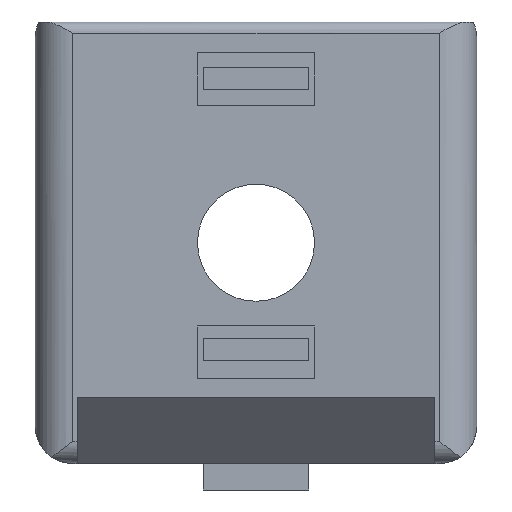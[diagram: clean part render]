
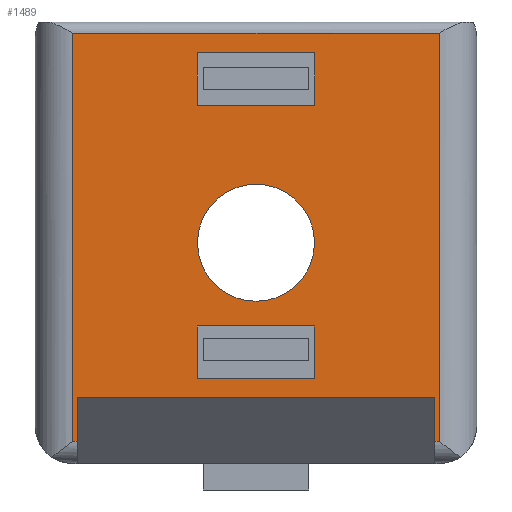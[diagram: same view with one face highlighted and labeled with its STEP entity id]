
A CAD part, left-side view. The second image highlights one B-rep face of the part: STEP entity #1489.
In plain terms, the highlighted planar face has unit normal (-1, 0, 0).
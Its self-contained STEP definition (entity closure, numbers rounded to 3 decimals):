
#38=CIRCLE($,#1587,2.65);
#119=FACE_BOUND($,#268,.T.);
#120=FACE_BOUND($,#269,.T.);
#121=FACE_BOUND($,#270,.T.);
#122=FACE_BOUND($,#271,.T.);
#268=EDGE_LOOP($,(#1221,#1222,#1223,#1224));
#269=EDGE_LOOP($,(#1225,#1226,#1227,#1228));
#270=EDGE_LOOP($,(#1229,#1230,#1231,#1232,#1233,#1234,#1235,#1236));
#271=EDGE_LOOP($,(#1237));
#330=LINE($,#2066,#494);
#334=LINE($,#2074,#498);
#337=LINE($,#2080,#501);
#340=LINE($,#2085,#504);
#342=LINE($,#2091,#506);
#346=LINE($,#2099,#510);
#349=LINE($,#2105,#513);
#352=LINE($,#2110,#516);
#415=LINE($,#2285,#579);
#416=LINE($,#2290,#580);
#423=LINE($,#2331,#587);
#424=LINE($,#2346,#588);
#427=LINE($,#2354,#591);
#428=LINE($,#2356,#592);
#429=LINE($,#2357,#593);
#430=LINE($,#2358,#594);
#494=VECTOR($,#1676,5.3);
#498=VECTOR($,#1682,2.4);
#501=VECTOR($,#1687,5.3);
#504=VECTOR($,#1692,2.4);
#506=VECTOR($,#1698,5.3);
#510=VECTOR($,#1704,2.4);
#513=VECTOR($,#1709,5.3);
#516=VECTOR($,#1714,2.4);
#579=VECTOR($,#1843,0.2);
#580=VECTOR($,#1848,0.2);
#587=VECTOR($,#1871,18.5);
#588=VECTOR($,#1878,16.6);
#591=VECTOR($,#1887,2.);
#592=VECTOR($,#1888,16.2);
#593=VECTOR($,#1889,2.);
#594=VECTOR($,#1890,18.5);
#650=VERTEX_POINT($,#2064);
#651=VERTEX_POINT($,#2065);
#654=VERTEX_POINT($,#2073);
#656=VERTEX_POINT($,#2079);
#658=VERTEX_POINT($,#2089);
#659=VERTEX_POINT($,#2090);
#662=VERTEX_POINT($,#2098);
#664=VERTEX_POINT($,#2104);
#717=VERTEX_POINT($,#2278);
#718=VERTEX_POINT($,#2280);
#719=VERTEX_POINT($,#2287);
#720=VERTEX_POINT($,#2289);
#727=VERTEX_POINT($,#2321);
#731=VERTEX_POINT($,#2337);
#733=VERTEX_POINT($,#2353);
#734=VERTEX_POINT($,#2355);
#735=VERTEX_POINT($,#2359);
#794=EDGE_CURVE($,#650,#651,#330,.T.);
#798=EDGE_CURVE($,#651,#654,#334,.T.);
#801=EDGE_CURVE($,#654,#656,#337,.T.);
#804=EDGE_CURVE($,#656,#650,#340,.T.);
#806=EDGE_CURVE($,#658,#659,#342,.T.);
#810=EDGE_CURVE($,#659,#662,#346,.T.);
#813=EDGE_CURVE($,#662,#664,#349,.T.);
#816=EDGE_CURVE($,#664,#658,#352,.T.);
#889=EDGE_CURVE($,#717,#718,#415,.T.);
#891=EDGE_CURVE($,#720,#719,#416,.T.);
#904=EDGE_CURVE($,#718,#727,#423,.T.);
#908=EDGE_CURVE($,#731,#727,#424,.T.);
#912=EDGE_CURVE($,#719,#733,#427,.T.);
#913=EDGE_CURVE($,#733,#734,#428,.T.);
#914=EDGE_CURVE($,#734,#717,#429,.T.);
#915=EDGE_CURVE($,#731,#720,#430,.T.);
#916=EDGE_CURVE($,#735,#735,#38,.T.);
#1221=ORIENTED_EDGE($,*,*,#794,.T.);
#1222=ORIENTED_EDGE($,*,*,#798,.T.);
#1223=ORIENTED_EDGE($,*,*,#801,.T.);
#1224=ORIENTED_EDGE($,*,*,#804,.T.);
#1225=ORIENTED_EDGE($,*,*,#806,.T.);
#1226=ORIENTED_EDGE($,*,*,#810,.T.);
#1227=ORIENTED_EDGE($,*,*,#813,.T.);
#1228=ORIENTED_EDGE($,*,*,#816,.T.);
#1229=ORIENTED_EDGE($,*,*,#912,.T.);
#1230=ORIENTED_EDGE($,*,*,#913,.T.);
#1231=ORIENTED_EDGE($,*,*,#914,.T.);
#1232=ORIENTED_EDGE($,*,*,#889,.T.);
#1233=ORIENTED_EDGE($,*,*,#904,.T.);
#1234=ORIENTED_EDGE($,*,*,#908,.F.);
#1235=ORIENTED_EDGE($,*,*,#915,.T.);
#1236=ORIENTED_EDGE($,*,*,#891,.T.);
#1237=ORIENTED_EDGE($,*,*,#916,.T.);
#1416=PLANE($,#1586);
#1489=ADVANCED_FACE($,(#119,#120,#121,#122),#1416,.T.);
#1586=AXIS2_PLACEMENT_3D($,#2352,#1885,#1886);
#1587=AXIS2_PLACEMENT_3D($,#2360,#1891,#1892);
#1676=DIRECTION($,(0.,-1.,0.));
#1682=DIRECTION($,(0.,0.,-1.));
#1687=DIRECTION($,(0.,1.,0.));
#1692=DIRECTION($,(0.,0.,1.));
#1698=DIRECTION($,(0.,-1.,0.));
#1704=DIRECTION($,(0.,0.,-1.));
#1709=DIRECTION($,(0.,1.,0.));
#1714=DIRECTION($,(0.,0.,1.));
#1843=DIRECTION($,(0.,-1.,0.));
#1848=DIRECTION($,(0.,-1.,0.));
#1871=DIRECTION($,(0.,0.,1.));
#1878=DIRECTION($,(0.,-1.,0.));
#1885=DIRECTION('center_axis',(-1.,0.,0.));
#1886=DIRECTION('ref_axis',(0.,0.,1.));
#1887=DIRECTION($,(0.,0.,1.));
#1888=DIRECTION($,(0.,-1.,0.));
#1889=DIRECTION($,(0.,0.,-1.));
#1890=DIRECTION($,(0.,0.,-1.));
#1891=DIRECTION('center_axis',(1.,0.,0.));
#1892=DIRECTION('ref_axis',(0.,1.,0.));
#2064=CARTESIAN_POINT('',(0.,12.65,6.229));
#2065=CARTESIAN_POINT('',(0.,7.35,6.229));
#2066=CARTESIAN_POINT($,(0.,13.675,6.229));
#2073=CARTESIAN_POINT('',(0.,7.35,3.829));
#2074=CARTESIAN_POINT($,(0.,7.35,2.415));
#2079=CARTESIAN_POINT('',(0.,12.65,3.829));
#2080=CARTESIAN_POINT($,(0.,16.325,3.829));
#2085=CARTESIAN_POINT($,(0.,12.65,3.615));
#2089=CARTESIAN_POINT('',(0.,12.65,18.615));
#2090=CARTESIAN_POINT('',(0.,7.35,18.615));
#2091=CARTESIAN_POINT($,(0.,13.675,18.615));
#2098=CARTESIAN_POINT('',(0.,7.35,16.215));
#2099=CARTESIAN_POINT($,(0.,7.35,8.607));
#2104=CARTESIAN_POINT('',(0.,12.65,16.215));
#2105=CARTESIAN_POINT($,(0.,16.325,16.215));
#2110=CARTESIAN_POINT($,(0.,12.65,9.807));
#2278=CARTESIAN_POINT('',(0.,1.9,1.));
#2280=CARTESIAN_POINT('',(0.,1.7,1.));
#2285=CARTESIAN_POINT($,(0.,20.,1.));
#2287=CARTESIAN_POINT('',(0.,18.1,1.));
#2289=CARTESIAN_POINT('',(0.,18.3,1.));
#2290=CARTESIAN_POINT($,(0.,20.,1.));
#2321=CARTESIAN_POINT('',(0.,1.7,19.5));
#2331=CARTESIAN_POINT($,(0.,1.7,0.5));
#2337=CARTESIAN_POINT('',(0.,18.3,19.5));
#2346=CARTESIAN_POINT($,(0.,20.,19.5));
#2352=CARTESIAN_POINT('Origin',(0.,20.,1.));
#2353=CARTESIAN_POINT('',(0.,18.1,3.));
#2354=CARTESIAN_POINT($,(0.,18.1,0.896));
#2355=CARTESIAN_POINT('',(0.,1.9,3.));
#2356=CARTESIAN_POINT($,(0.,15.,3.));
#2357=CARTESIAN_POINT($,(0.,1.9,0.896));
#2358=CARTESIAN_POINT($,(0.,18.3,10.25));
#2359=CARTESIAN_POINT('',(0.,12.65,10.));
#2360=CARTESIAN_POINT('Origin',(0.,10.,10.));
